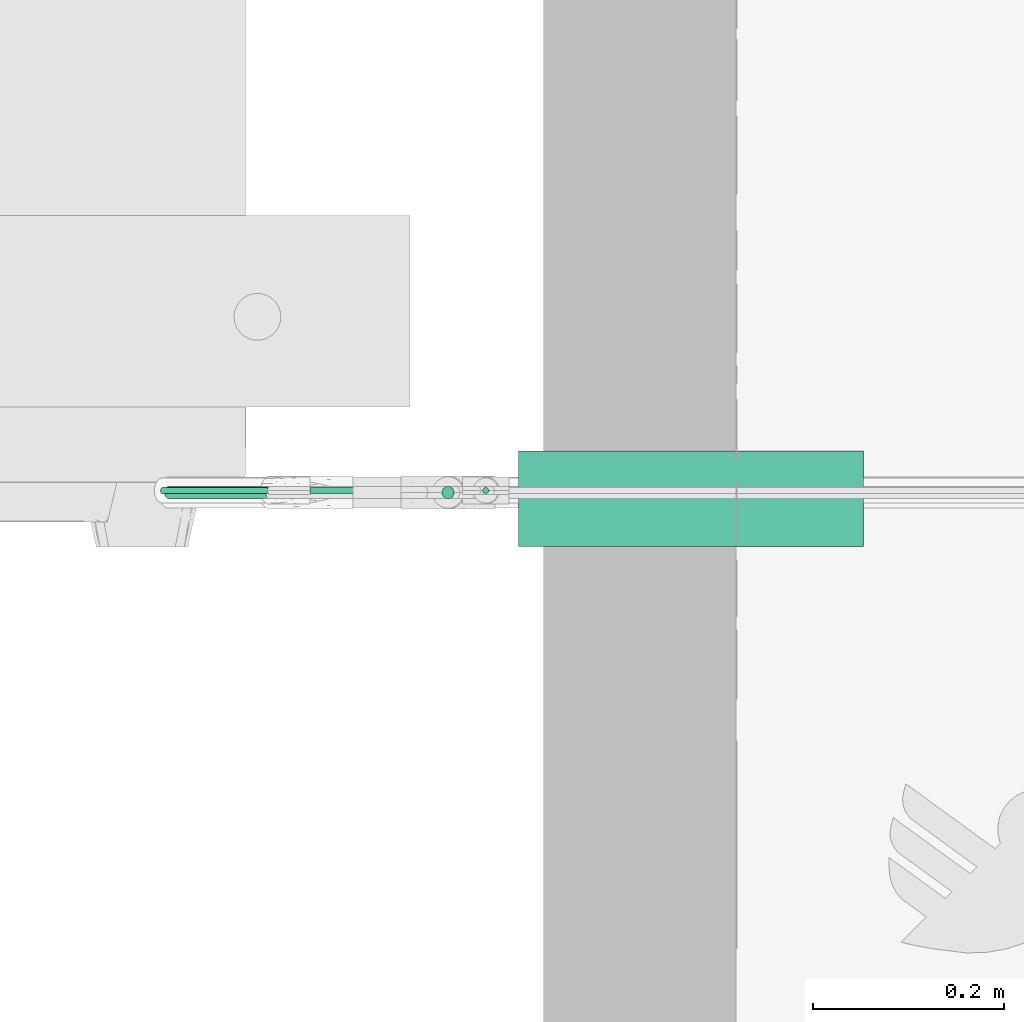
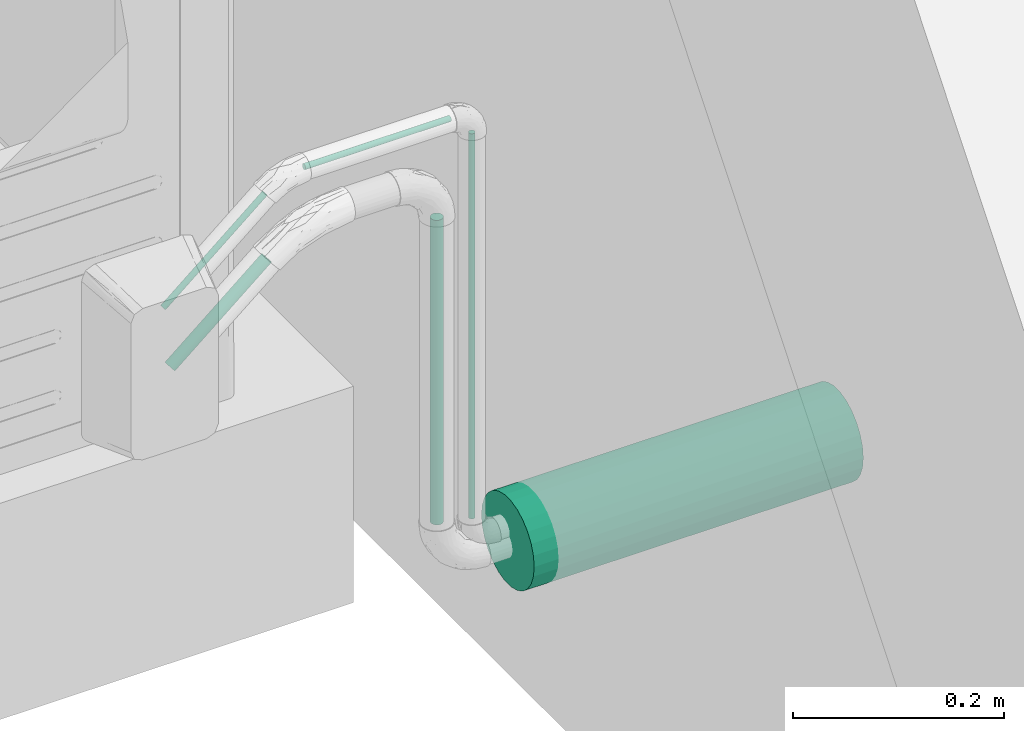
# One storey, part 18 of 32: 6 flow segments.
"""IFC2X3 building model written with IfcOpenShell, lengths in metres."""

from ifc_helpers import new_model, entity, si_unit, converted_unit, derived_unit, direction, frame, frame_2d, origin, origin_2d_with_axis, place, context, subcontext, project, spatial, circle, extrude, type_object, element, save


model = new_model("IFC2X3")

# Units and contexts
model_context = context("Model", 3, precision=1e-05, world=origin(), true_north=direction((6.123031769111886e-17, 1.0)))
body_context = subcontext(model_context, "Body", "Model", "MODEL_VIEW")
ifc_project = project(units=[si_unit("LENGTHUNIT", "METRE"), si_unit("AREAUNIT", "SQUARE_METRE"), si_unit("VOLUMEUNIT", "CUBIC_METRE"), converted_unit("PLANEANGLEUNIT", "DEGREE", entity("IfcPlaneAngleMeasure", 0.017453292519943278), si_unit("PLANEANGLEUNIT", "RADIAN"), dimensions=[0, 0, 0, 0, 0, 0, 0]), si_unit("MASSUNIT", "GRAM", prefix="KILO"), derived_unit("MASSDENSITYUNIT", [(si_unit("MASSUNIT", "GRAM", prefix="KILO"), 1), (si_unit("LENGTHUNIT", "METRE"), -3)]), derived_unit("IONCONCENTRATIONUNIT", [(si_unit("MASSUNIT", "GRAM", prefix="KILO"), 1), (si_unit("LENGTHUNIT", "METRE"), -3)]), derived_unit("MOMENTOFINERTIAUNIT", [(si_unit("LENGTHUNIT", "METRE"), 4)]), si_unit("TIMEUNIT", "SECOND"), si_unit("FREQUENCYUNIT", "HERTZ"), si_unit("THERMODYNAMICTEMPERATUREUNIT", "DEGREE_CELSIUS"), derived_unit("THERMALTRANSMITTANCEUNIT", [(si_unit("MASSUNIT", "GRAM", prefix="KILO"), 1), (si_unit("THERMODYNAMICTEMPERATUREUNIT", "KELVIN"), -1), (si_unit("TIMEUNIT", "SECOND"), -3)]), derived_unit("THERMALCONDUCTANCEUNIT", [(si_unit("MASSUNIT", "GRAM", prefix="KILO"), 1), (si_unit("THERMODYNAMICTEMPERATUREUNIT", "KELVIN"), -1), (si_unit("TIMEUNIT", "SECOND"), -3), (si_unit("LENGTHUNIT", "METRE"), 1)]), derived_unit("VOLUMETRICFLOWRATEUNIT", [(si_unit("LENGTHUNIT", "METRE", prefix="DECI"), 3), (si_unit("TIMEUNIT", "SECOND"), -1)]), derived_unit("MASSFLOWRATEUNIT", [(si_unit("MASSUNIT", "GRAM", prefix="KILO"), 1), (si_unit("TIMEUNIT", "SECOND"), -1)]), derived_unit("ROTATIONALFREQUENCYUNIT", [(si_unit("TIMEUNIT", "SECOND"), -1)]), si_unit("ELECTRICCURRENTUNIT", "AMPERE"), si_unit("ELECTRICVOLTAGEUNIT", "VOLT"), si_unit("POWERUNIT", "WATT"), si_unit("FORCEUNIT", "NEWTON", prefix="KILO"), si_unit("ILLUMINANCEUNIT", "LUX"), si_unit("LUMINOUSFLUXUNIT", "LUMEN"), si_unit("LUMINOUSINTENSITYUNIT", "CANDELA"), si_unit("ENERGYUNIT", "JOULE"), derived_unit("USERDEFINED", [(si_unit("MASSUNIT", "GRAM", prefix="KILO"), -1), (si_unit("LENGTHUNIT", "METRE"), -2), (si_unit("TIMEUNIT", "SECOND"), 3), (si_unit("LUMINOUSFLUXUNIT", "LUMEN"), 1)]), derived_unit("USERDEFINED", [(si_unit("MASSUNIT", "GRAM", prefix="KILO"), 1), (si_unit("TIMEUNIT", "SECOND"), -3), (si_unit("LENGTHUNIT", "METRE"), 3), (si_unit("ELECTRICCURRENTUNIT", "AMPERE"), -2)]), derived_unit("SOUNDPOWERUNIT", [(si_unit("MASSUNIT", "GRAM", prefix="KILO"), 1), (si_unit("TIMEUNIT", "SECOND"), -3), (si_unit("LENGTHUNIT", "METRE"), 2)]), derived_unit("SOUNDPRESSUREUNIT", [(si_unit("MASSUNIT", "GRAM", prefix="KILO"), 1), (si_unit("LENGTHUNIT", "METRE"), -1), (si_unit("TIMEUNIT", "SECOND"), -2)]), derived_unit("LINEARVELOCITYUNIT", [(si_unit("LENGTHUNIT", "METRE"), 1), (si_unit("TIMEUNIT", "SECOND"), -1)]), si_unit("PRESSUREUNIT", "PASCAL"), derived_unit("USERDEFINED", [(si_unit("MASSUNIT", "GRAM", prefix="KILO"), 1), (si_unit("LENGTHUNIT", "METRE"), -2), (si_unit("TIMEUNIT", "SECOND"), -2)]), derived_unit("LINEARFORCEUNIT", [(si_unit("MASSUNIT", "GRAM", prefix="KILO"), 1), (si_unit("TIMEUNIT", "SECOND"), -2)]), derived_unit("PLANARFORCEUNIT", [(si_unit("MASSUNIT", "GRAM", prefix="KILO"), 1), (si_unit("LENGTHUNIT", "METRE"), -1), (si_unit("TIMEUNIT", "SECOND"), -2)]), derived_unit("SPECIFICHEATCAPACITYUNIT", [(si_unit("THERMODYNAMICTEMPERATUREUNIT", "KELVIN"), -1), (si_unit("LENGTHUNIT", "METRE"), 2), (si_unit("TIMEUNIT", "SECOND"), -2)]), derived_unit("HEATFLUXDENSITYUNIT", [(si_unit("MASSUNIT", "GRAM", prefix="KILO"), 1), (si_unit("TIMEUNIT", "SECOND"), -3)]), derived_unit("HEATINGVALUEUNIT", [(si_unit("LENGTHUNIT", "METRE"), 2), (si_unit("TIMEUNIT", "SECOND"), -2)]), derived_unit("VAPORPERMEABILITYUNIT", [(si_unit("LENGTHUNIT", "METRE"), -1), (si_unit("TIMEUNIT", "SECOND"), 1)]), derived_unit("DYNAMICVISCOSITYUNIT", [(si_unit("MASSUNIT", "GRAM", prefix="KILO"), 1), (si_unit("TIMEUNIT", "SECOND"), -1), (si_unit("LENGTHUNIT", "METRE"), -1)]), derived_unit("THERMALEXPANSIONCOEFFICIENTUNIT", [(si_unit("THERMODYNAMICTEMPERATUREUNIT", "KELVIN"), -1)]), derived_unit("MODULUSOFELASTICITYUNIT", [(si_unit("MASSUNIT", "GRAM", prefix="KILO"), 1), (si_unit("LENGTHUNIT", "METRE"), -1), (si_unit("TIMEUNIT", "SECOND"), -2)]), derived_unit("ISOTHERMALMOISTURECAPACITYUNIT", [(si_unit("MASSUNIT", "GRAM", prefix="KILO"), -1), (si_unit("LENGTHUNIT", "METRE"), 3)]), derived_unit("MOISTUREDIFFUSIVITYUNIT", [(si_unit("TIMEUNIT", "SECOND"), -1), (si_unit("LENGTHUNIT", "METRE"), 2)]), derived_unit("MASSPERLENGTHUNIT", [(si_unit("MASSUNIT", "GRAM", prefix="KILO"), 1), (si_unit("LENGTHUNIT", "METRE"), -1)]), derived_unit("THERMALRESISTANCEUNIT", [(si_unit("MASSUNIT", "GRAM", prefix="KILO"), -1), (si_unit("TIMEUNIT", "SECOND"), 3), (si_unit("THERMODYNAMICTEMPERATUREUNIT", "KELVIN"), 1)]), derived_unit("ACCELERATIONUNIT", [(si_unit("LENGTHUNIT", "METRE"), 1), (si_unit("TIMEUNIT", "SECOND"), -2)]), derived_unit("ANGULARVELOCITYUNIT", [(si_unit("TIMEUNIT", "SECOND"), -1), (si_unit("PLANEANGLEUNIT", "RADIAN"), 1)]), derived_unit("LINEARSTIFFNESSUNIT", [(si_unit("MASSUNIT", "GRAM", prefix="KILO"), 1), (si_unit("TIMEUNIT", "SECOND"), -2)]), derived_unit("WARPINGCONSTANTUNIT", [(si_unit("LENGTHUNIT", "METRE"), 6)]), derived_unit("LINEARMOMENTUNIT", [(si_unit("MASSUNIT", "GRAM", prefix="KILO"), 1), (si_unit("LENGTHUNIT", "METRE"), 1), (si_unit("TIMEUNIT", "SECOND"), -2)]), derived_unit("TORQUEUNIT", [(si_unit("MASSUNIT", "GRAM", prefix="KILO"), 1), (si_unit("LENGTHUNIT", "METRE"), 2), (si_unit("TIMEUNIT", "SECOND"), -2)])], contexts=[model_context])

# Site, building, storey
site_placement = place(None, origin())
site = spatial("IfcSite", under=ifc_project, at=site_placement, Name="Default", CompositionType="ELEMENT")
building_placement = place(site_placement, origin())
building = spatial("IfcBuilding", under=site, at=building_placement, CompositionType="ELEMENT")
storey_placement = place(building_placement, origin())
storey = spatial("IfcBuildingStorey", under=building, at=storey_placement, Name="Niveau 0", CompositionType="ELEMENT", Elevation=-1.949160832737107e-14)

# Flow segments
pipe_segment_type_1 = type_object("IfcPipeSegmentType", Name="Canalisation:PVC - NF", PredefinedType="NOTDEFINED")
flow_segment_1_placement = place(storey_placement, origin())
element("IfcFlowSegment", 1, at=flow_segment_1_placement, inside=storey, type_object=pipe_segment_type_1, Name="Canalisation:PVC - NF", ObjectType="Canalisation:PVC - NF", context=body_context, shape_type="SweptSolid", body=[
    extrude(circle(Radius=0.05, at=frame_2d((2.707167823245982e-16, -6.767919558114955e-17), x_axis=(1.0, 0.0))), frame((-14.936471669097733, 1.3685264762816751, -0.41015511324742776), z_axis=(1.0, 0.0, 0.0), x_axis=(0.0, -1.0, 0.0)), (0.0, 0.0, 1.0), 0.3600000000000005),
])
pipe_segment_type_2 = type_object("IfcPipeSegmentType", Name="Canalisation:Cuivre Frigo", PredefinedType="NOTDEFINED")
flow_segment_2_placement = place(storey_placement, origin())
element("IfcFlowSegment", 2, at=flow_segment_2_placement, inside=storey, type_object=pipe_segment_type_2, Name="Canalisation:Cuivre Frigo", ObjectType="Canalisation:Cuivre Frigo", context=body_context, shape_type="SweptSolid", body=[
    extrude(circle(Radius=0.0032, at=frame_2d((0.0, -3.2403294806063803e-18), x_axis=(1.0, 0.0))), frame((-15.308490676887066, 1.3770530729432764, -0.01567319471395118), z_axis=(0.7660444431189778, 0.0, 0.6427876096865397), x_axis=(0.0, -1.0, 0.0)), (0.0, 0.0, 1.0), 0.14549999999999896),
])
flow_segment_3_placement = place(storey_placement, origin())
element("IfcFlowSegment", 3, at=flow_segment_3_placement, inside=storey, type_object=pipe_segment_type_2, Name="Canalisation:Cuivre Frigo", ObjectType="Canalisation:Cuivre Frigo", context=body_context, shape_type="SweptSolid", body=[
    extrude(circle(Radius=0.0032, at=origin_2d_with_axis()), frame((-15.15446953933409, 1.3770530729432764, 0.09334358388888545), z_axis=(1.0, 0.0, 0.0), x_axis=(0.0, -1.0, 0.0)), (0.0, 0.0, 1.0), 0.1594488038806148),
])
flow_segment_4_placement = place(storey_placement, origin())
element("IfcFlowSegment", 4, at=flow_segment_4_placement, inside=storey, type_object=pipe_segment_type_2, Name="Canalisation:Cuivre Frigo", ObjectType="Canalisation:Cuivre Frigo", context=body_context, shape_type="SweptSolid", body=[
    extrude(circle(Radius=0.00635, at=origin_2d_with_axis()), frame((-15.30204541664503, 1.375053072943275, -0.08467319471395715), z_axis=(0.7660444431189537, 0.0, 0.6427876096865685), x_axis=(0.0, 1.0, 0.0)), (0.0, 0.0, 1.0), 0.1379237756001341),
])
flow_segment_5_placement = place(storey_placement, origin())
element("IfcFlowSegment", 5, at=flow_segment_5_placement, inside=storey, type_object=pipe_segment_type_2, Name="Canalisation:Cuivre Frigo", ObjectType="Canalisation:Cuivre Frigo", context=body_context, shape_type="SweptSolid", body=[
    extrude(circle(Radius=0.0032, at=origin_2d_with_axis()), frame((-14.970920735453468, 1.377053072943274, -0.3758999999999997)), (0.0, 0.0, 1.0), 0.4451435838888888),
])
flow_segment_6_placement = place(storey_placement, origin())
element("IfcFlowSegment", 6, at=flow_segment_6_placement, inside=storey, type_object=pipe_segment_type_2, Name="Canalisation:Cuivre Frigo", ObjectType="Canalisation:Cuivre Frigo", context=body_context, shape_type="SweptSolid", body=[
    extrude(circle(Radius=0.00635, at=origin_2d_with_axis()), frame((-15.010348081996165, 1.3750530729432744, -0.36569999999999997)), (0.0, 0.0, 1.0), 0.35210284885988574),
])

save(model, "model.ifc")
